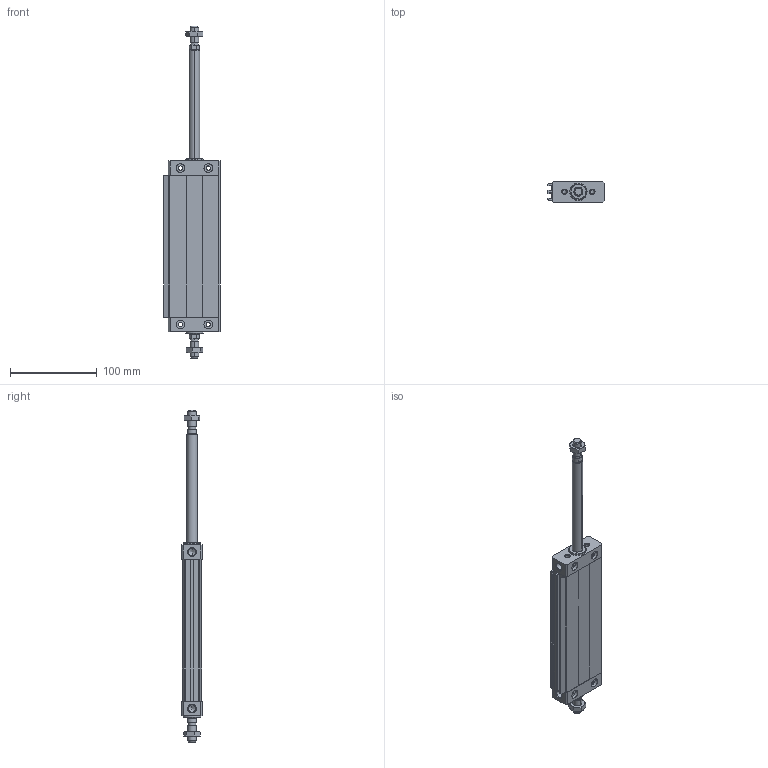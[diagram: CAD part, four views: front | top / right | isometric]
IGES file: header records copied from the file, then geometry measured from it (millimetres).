
Global section: file name: No Iges File Name specified; native system: Autodesk Inventor 2011; preprocessor: AutoDesk Inventor Iges Exporter R2011; author: airolcr1; date: 20101213.153015; units: millimetre
Bounding box: 65.5 x 24 x 382 mm (x, y, z)
Volume: 206810.4 mm3; surface area: 90239.7 mm2
Topology: 6 solids, 6 shells, 274 faces, 646 edges, 392 vertices
Faces by surface type: bspline 110, plane 96, cone 36, cylinder 18, revolution 14
